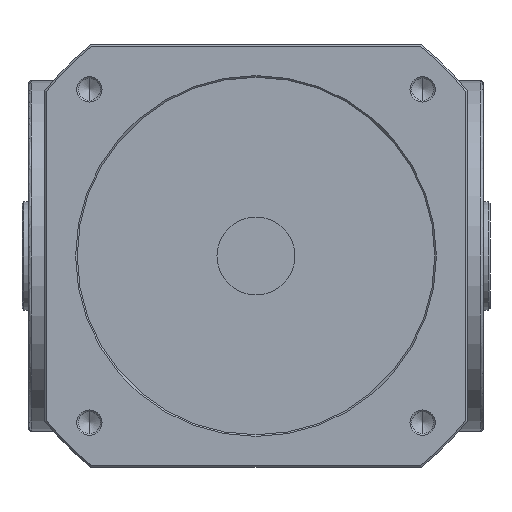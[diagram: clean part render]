
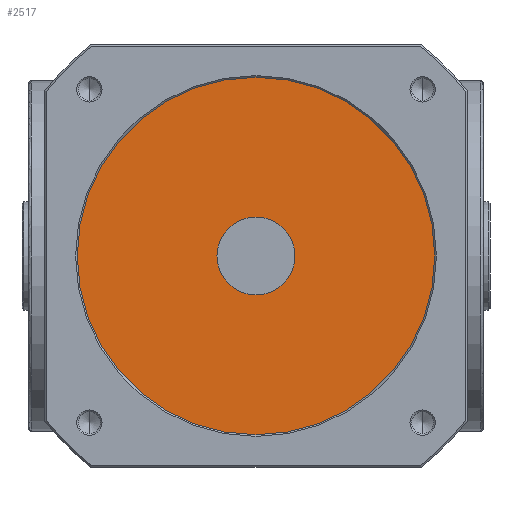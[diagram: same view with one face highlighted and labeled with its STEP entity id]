
A CAD part, front view. The second image highlights one B-rep face of the part: STEP entity #2517.
In plain terms, the highlighted planar face has unit normal (0, -1, 0).
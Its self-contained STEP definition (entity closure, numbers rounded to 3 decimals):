
#864 = EDGE_LOOP ( 'NONE', ( #5628, #6629 ) ) ;
#1089 = CIRCLE ( 'NONE', #8660, 12. ) ;
#1236 = DIRECTION ( 'NONE',  ( 0., -1., 0. ) ) ;
#1322 = CARTESIAN_POINT ( 'NONE',  ( 0., -155., 0. ) ) ;
#1485 = CARTESIAN_POINT ( 'NONE',  ( 0., -155., -55. ) ) ;
#1694 = EDGE_CURVE ( 'NONE', #10295, #5856, #5222, .T. ) ;
#2177 = DIRECTION ( 'NONE',  ( 0., 0., -1. ) ) ;
#2517 = ADVANCED_FACE ( 'NONE', ( #7139, #7129 ), #10160, .T. ) ;
#2610 = ORIENTED_EDGE ( 'NONE', *, *, #1694, .T. ) ;
#2698 = EDGE_CURVE ( 'NONE', #5856, #10295, #10305, .T. ) ;
#2945 = EDGE_CURVE ( 'NONE', #6823, #5471, #9892, .T. ) ;
#3004 = AXIS2_PLACEMENT_3D ( 'NONE', #8401, #3240, #9294 ) ;
#3240 = DIRECTION ( 'NONE',  ( 0., -1., 0. ) ) ;
#3483 = AXIS2_PLACEMENT_3D ( 'NONE', #4144, #10235, #4981 ) ;
#4144 = CARTESIAN_POINT ( 'NONE',  ( 0., -155., 0. ) ) ;
#4981 = DIRECTION ( 'NONE',  ( 0., 0., -1. ) ) ;
#5027 = DIRECTION ( 'NONE',  ( 0., -1., 0. ) ) ;
#5222 = CIRCLE ( 'NONE', #3483, 55. ) ;
#5403 = CARTESIAN_POINT ( 'NONE',  ( 0., -155., -12. ) ) ;
#5471 = VERTEX_POINT ( 'NONE', #9109 ) ;
#5628 = ORIENTED_EDGE ( 'NONE', *, *, #2945, .F. ) ;
#5856 = VERTEX_POINT ( 'NONE', #7816 ) ;
#6111 = EDGE_LOOP ( 'NONE', ( #2610, #10749 ) ) ;
#6278 = CARTESIAN_POINT ( 'NONE',  ( 0., -155., 0. ) ) ;
#6629 = ORIENTED_EDGE ( 'NONE', *, *, #6820, .F. ) ;
#6820 = EDGE_CURVE ( 'NONE', #5471, #6823, #1089, .T. ) ;
#6823 = VERTEX_POINT ( 'NONE', #5403 ) ;
#7129 = FACE_OUTER_BOUND ( 'NONE', #6111, .T. ) ;
#7139 = FACE_BOUND ( 'NONE', #864, .T. ) ;
#7159 = DIRECTION ( 'NONE',  ( 0., 0., -1. ) ) ;
#7252 = DIRECTION ( 'NONE',  ( 0., -1., 0. ) ) ;
#7816 = CARTESIAN_POINT ( 'NONE',  ( 0., -155., 55. ) ) ;
#7898 = AXIS2_PLACEMENT_3D ( 'NONE', #1322, #7252, #2177 ) ;
#8401 = CARTESIAN_POINT ( 'NONE',  ( 0., -155., 0. ) ) ;
#8660 = AXIS2_PLACEMENT_3D ( 'NONE', #6278, #1236, #7159 ) ;
#9109 = CARTESIAN_POINT ( 'NONE',  ( 0., -155., 12. ) ) ;
#9294 = DIRECTION ( 'NONE',  ( 0., 0., -1. ) ) ;
#9892 = CIRCLE ( 'NONE', #7898, 12. ) ;
#10160 = PLANE ( 'NONE',  #3004 ) ;
#10235 = DIRECTION ( 'NONE',  ( 0., -1., 0. ) ) ;
#10281 = CARTESIAN_POINT ( 'NONE',  ( 0., -155., 0. ) ) ;
#10295 = VERTEX_POINT ( 'NONE', #1485 ) ;
#10305 = CIRCLE ( 'NONE', #10348, 55. ) ;
#10348 = AXIS2_PLACEMENT_3D ( 'NONE', #10281, #5027, #11179 ) ;
#10749 = ORIENTED_EDGE ( 'NONE', *, *, #2698, .T. ) ;
#11179 = DIRECTION ( 'NONE',  ( 0., 0., -1. ) ) ;
